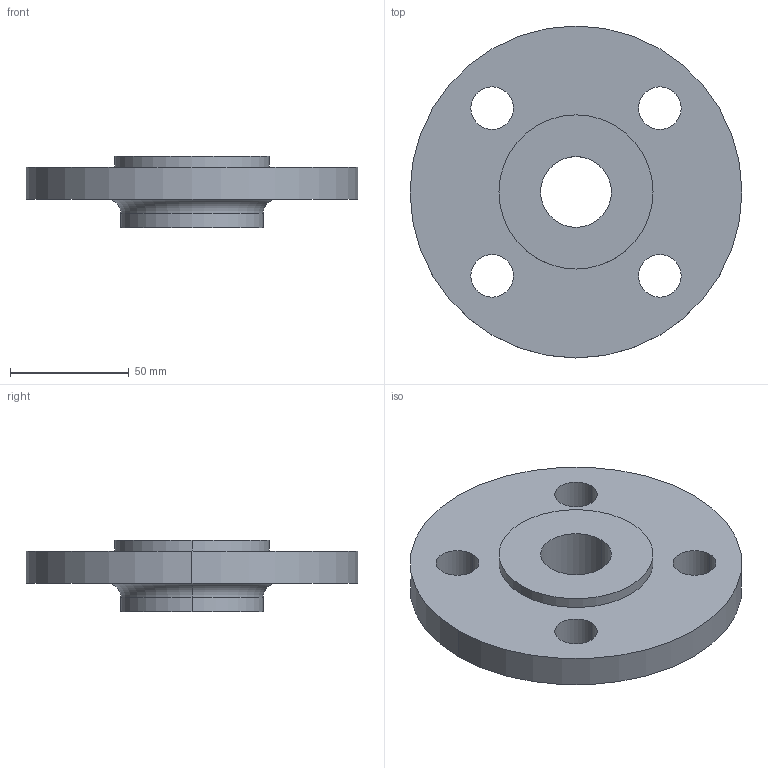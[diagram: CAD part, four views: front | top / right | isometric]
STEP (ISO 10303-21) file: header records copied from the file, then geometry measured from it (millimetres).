
FILE_DESCRIPTION (( 'STEP AP214' ), '1' );
FILE_NAME ('PN40 DN32 Type 13 - Type E Face.STEP', '2018-12-29T23:53:39', ( '' ), ( '' ), 'SwSTEP 2.0', 'SolidWorks 2019', '' );
FILE_SCHEMA (( 'AUTOMOTIVE_DESIGN' ));
Length unit declared in the file: millimetre
Products named in the file (1): PN40 DN32 Type 13 - Type E Face
Bounding box: 140 x 140 x 30 mm (x, y, z)
Volume: 223484.8 mm3; surface area: 41868.2 mm2
Topology: 1 solids, 1 shells, 22 faces, 52 edges, 34 vertices
Faces by surface type: cylinder 16, plane 4, torus 2
Entity records: 710 total; most frequent: DIRECTION 134, CARTESIAN_POINT 109, ORIENTED_EDGE 104, AXIS2_PLACEMENT_3D 59, EDGE_CURVE 52, CIRCLE 36, EDGE_LOOP 34, VERTEX_POINT 34
